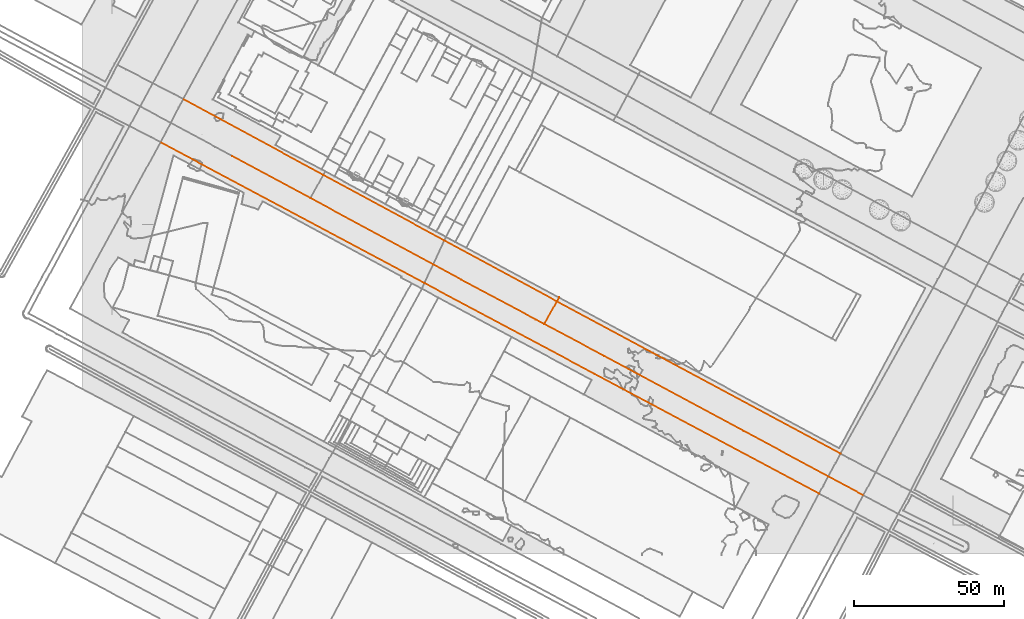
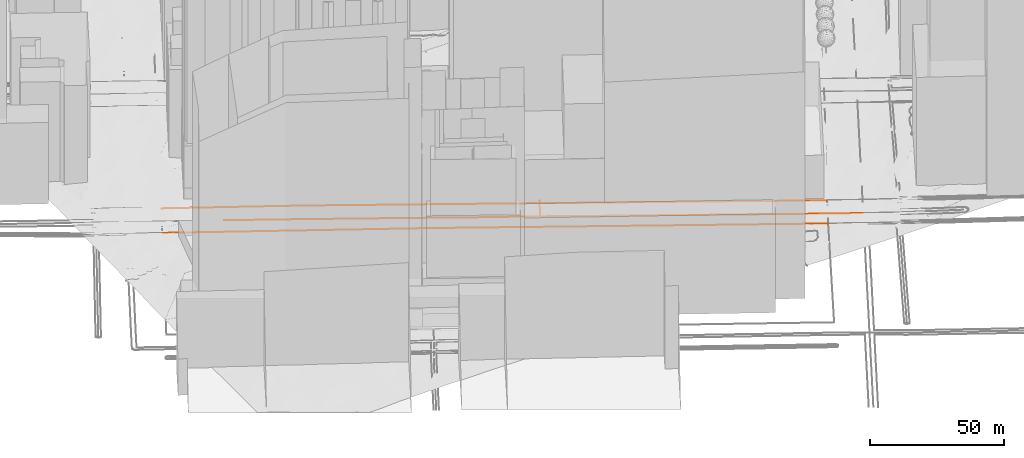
# Not in any storey, part 56 of 76: 4 proxies.
"""IFC2X3 model written with IfcOpenShell, lengths in metres."""

from ifc_helpers import new_model, entity, si_unit, frame, origin_with_axes, place, context, subcontext, project, element, save


model = new_model("IFC2X3")

# Units and contexts
model_context = context("Model", 3, precision=1e-05, world=origin_with_axes())
body_context = subcontext(model_context, "Body", "Model", "MODEL_VIEW")
ifc_project = project(units=[si_unit("AREAUNIT", "SQUARE_METRE"), si_unit("LENGTHUNIT", "METRE")], contexts=[model_context])

# Proxies
proxy_1_placement = place(None, frame((50.0849561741, 132.3426737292, 21.0684949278), z_axis=(0.0, 0.0, 1.0), x_axis=(1.0, 0.0, 0.0)))
element("IfcBuildingElementProxy", 1, at=proxy_1_placement, Name="Route 56", ObjectType="NOTDEFINED", context=body_context, shape_type="GeometricCurveSet", body=[
    entity("IfcGeometricCurveSet", [entity("IfcPolyline", [entity("IfcCartesianPoint", [210.0739455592, -112.9221501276, -1.8445214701]), entity("IfcCartesianPoint", [198.3935286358, -106.6409434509, -1.7810165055]), entity("IfcCartesianPoint", [170.190792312, -91.4813506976, -1.4998299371]), entity("IfcCartesianPoint", [123.8264726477, -66.5629603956, -1.001116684]), entity("IfcCartesianPoint", [103.8394068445, -55.9039517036, -0.6951989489]), entity("IfcCartesianPoint", [101.0448111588, -54.4154193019, -0.6541933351]), entity("IfcCartesianPoint", [76.2669456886, -41.1918783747, -0.5617740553]), entity("IfcCartesianPoint", [66.8709137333, -36.060769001, -0.4323388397]), entity("IfcCartesianPoint", [26.0191724, -14.0087388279, -0.1251581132]), entity("IfcCartesianPoint", [0.0, 0.0, 0.0])])]),
])
proxy_2_placement = place(None, frame((33.7329413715, 151.3153674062, 20.6846759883), z_axis=(0.0, 0.0, 1.0), x_axis=(1.0, 0.0, 0.0)))
element("IfcBuildingElementProxy", 2, at=proxy_2_placement, Name="Route 57", ObjectType="NOTDEFINED", context=body_context, shape_type="GeometricCurveSet", body=[
    entity("IfcGeometricCurveSet", [entity("IfcPolyline", [entity("IfcCartesianPoint", [0.0, 0.0, 0.0]), entity("IfcCartesianPoint", [46.6458303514, -25.2601445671, 0.2714832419]), entity("IfcCartesianPoint", [86.9207549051, -47.0746019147, -0.0392052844]), entity("IfcCartesianPoint", [124.4093786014, -67.3669131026, -0.3448146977]), entity("IfcCartesianPoint", [218.8108613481, -118.050114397, -1.355157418])])]),
])
proxy_3_placement = place(None, frame((26.1761408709, 136.9057730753, 20.8976590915), z_axis=(0.0, 0.0, 1.0), x_axis=(1.0, 0.0, 0.0)))
element("IfcBuildingElementProxy", 3, at=proxy_3_placement, Name="Route 58", ObjectType="NOTDEFINED", context=body_context, shape_type="GeometricCurveSet", body=[
    entity("IfcGeometricCurveSet", [entity("IfcPolyline", [entity("IfcCartesianPoint", [0.0, 0.0, 0.0]), entity("IfcCartesianPoint", [87.8810213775, -46.8859024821, -0.1469235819]), entity("IfcCartesianPoint", [144.5888723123, -77.1356442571, -0.7656454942]), entity("IfcCartesianPoint", [219.203513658, -116.946652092, -1.548332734])])]),
])
proxy_4_placement = place(None, frame((153.9243630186, 76.4387220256, 20.3732959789), z_axis=(0.0, 0.0, 1.0), x_axis=(1.0, 0.0, 0.0)))
element("IfcBuildingElementProxy", 4, at=proxy_4_placement, Name="Route 62", ObjectType="NOTDEFINED", context=body_context, shape_type="GeometricCurveSet", body=[
    entity("IfcGeometricCurveSet", [entity("IfcPolyline", [entity("IfcCartesianPoint", [0.0, 0.0, 0.0]), entity("IfcCartesianPoint", [4.2179569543, 7.5097322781, -0.0334346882]), entity("IfcCartesianPoint", [4.9953651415, 8.8954464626, -0.028685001])])]),
])

save(model, "model.ifc")
